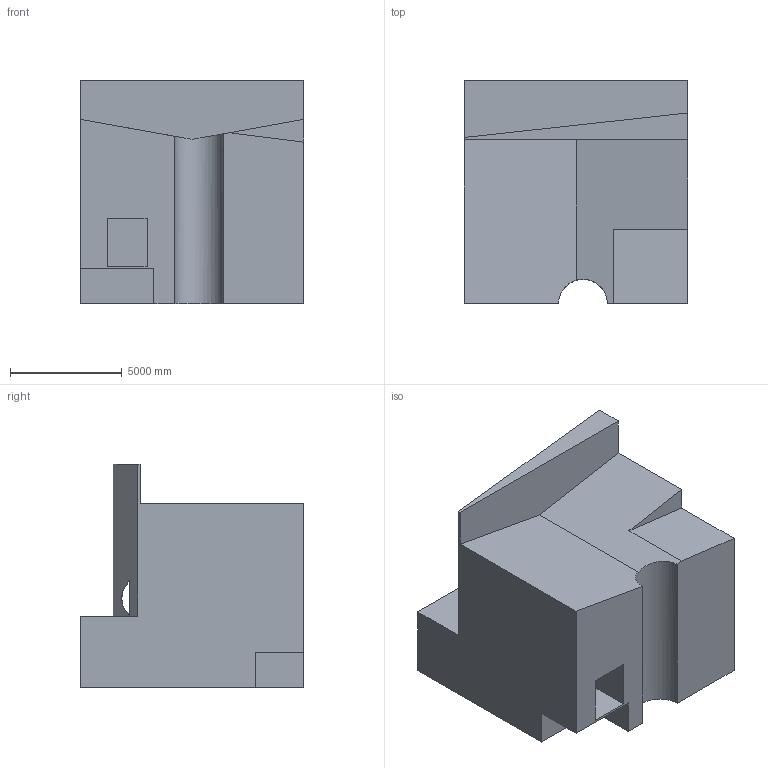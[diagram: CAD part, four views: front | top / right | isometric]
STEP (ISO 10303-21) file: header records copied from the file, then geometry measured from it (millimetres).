
FILE_DESCRIPTION (( 'STEP AP203' ), '1' );
FILE_NAME ('785.STEP', '2022-07-29T13:11:47', ( 'user' ), ( '' ), 'SwSTEP 2.0', 'SolidWorks 2021', '' );
FILE_SCHEMA (( 'CONFIG_CONTROL_DESIGN' ));
Length unit declared in the file: centimetre
Products named in the file (1): 785
Bounding box: 10000 x 10000 x 10000 mm (x, y, z)
Volume: 632822387927.7 mm3; surface area: 612054776.9 mm2
Topology: 1 solids, 1 shells, 30 faces, 81 edges, 54 vertices
Faces by surface type: plane 25, cylinder 5
Entity records: 1016 total; most frequent: CARTESIAN_POINT 175, ORIENTED_EDGE 162, DIRECTION 150, EDGE_CURVE 81, LINE 68, VECTOR 68, VERTEX_POINT 54, AXIS2_PLACEMENT_3D 41
